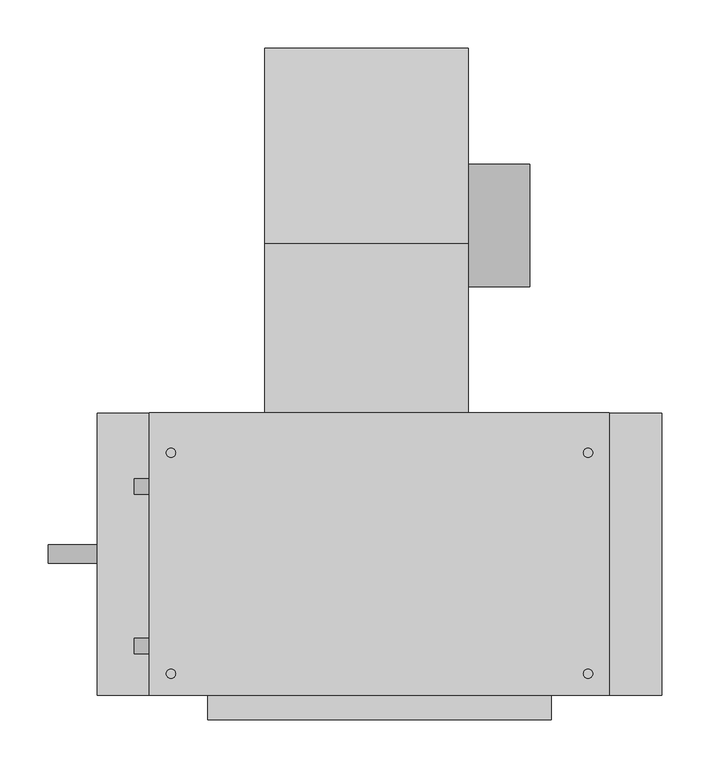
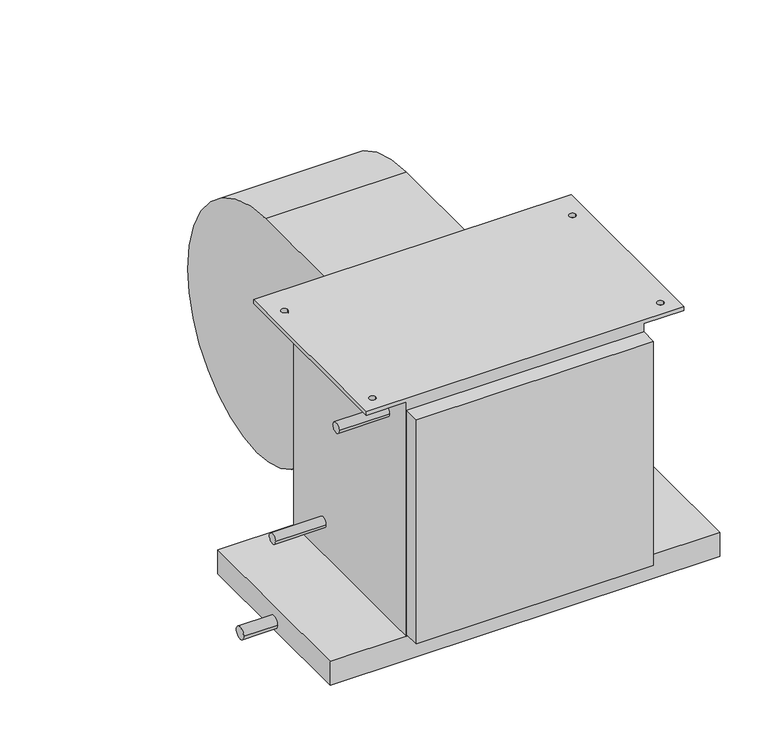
"""IFC4 building model written with IfcOpenShell, lengths in millimetres: proxy geometry, Concealed_High_Capacity_Horizontal_Fan_Coil_Unit_-_42DAA_-_CARRIER_-_2-Pipe_Cool-EHeat_LH_2022 : Size 06 - 277v/60Hz/1Ph - 6 Row 4.0kW."""

from ifc_helpers import new_model, si_unit, point, frame, frame_2d, origin, place, context, project, spatial, polyline, circle_curve, trimmed, segment, composite_curve, outline, extrude, source, transform, mapped, element, save
from ifc_brep_helpers import plane_surface, cylinder_surface, revolved_surface, advanced_brep


def mechanical_equipment_44f1a98d(model_context):
    return source(origin(), model_context, "Body", "SolidModel", [
        extrude(outline(composite_curve([segment(trimmed(circle_curve(frame_2d((102.0007598, -206.8897468)), 63.5), [point((165.5007598, -206.8897468))], [point((38.5007598, -206.8897468))], False, "CARTESIAN"), True, "CONTINUOUS"), segment(trimmed(circle_curve(frame_2d((102.0007598, -206.8897468)), 63.5), [point((38.5007598, -206.8897468))], [point((165.5007598, -206.8897468))], False, "CARTESIAN"), True, "CONTINUOUS")], self_intersect=False)), frame((244.475, 0.0, 0.0), z_axis=(1.0, 0.0, 0.0), x_axis=(0.0, 1.0, 0.0)), (0.0, 0.0, 1.0), 63.5),
        advanced_brep(
        [(33.401, 285.5155957, -222.029602), (33.401, 104.6226, -403.64664), (33.401, -50.9016, -277.10638), (33.401, -92.075, -277.10638), (33.401, -92.075, -19.05), (33.401, 83.0080093, -19.05), (244.475, 285.5155957, -222.029602), (244.475, 83.0080093, -19.05), (244.475, -92.075, -19.05), (244.475, -92.075, -277.10638), (244.475, -50.9016, -277.10638), (244.475, 104.622599, -403.6457839)],
        [
            (0, 1, circle_curve(frame((33.401, 104.44226, -222.57258), z_axis=(-1.0, 0.0, 0.0), x_axis=(0.0, -1.0, 0.0)), 181.0741498)),
            (1, 2, circle_curve(frame((33.401, 104.44226, -245.02364), z_axis=(-1.0, 0.0, 0.0), x_axis=(0.0, -1.0, 0.0)), 158.6222464)),
            (2, 3),
            (3, 4),
            (4, 5),
            (5, 0, circle_curve(frame((33.401, 81.9912, -222.57258), z_axis=(-1.0, 0.0, 0.0), x_axis=(0.0, -1.0, 0.0)), 203.52512)),
            (6, 7, circle_curve(frame((244.475, 81.9912, -222.57258), z_axis=(1.0, 0.0, 0.0), x_axis=(0.0, -1.0, 0.0)), 203.52512)),
            (7, 8),
            (8, 9),
            (9, 10),
            (10, 11, circle_curve(frame((244.475, 104.44226, -245.02364), z_axis=(1.0, 0.0, 0.0), x_axis=(0.0, -1.0, 0.0)), 158.6222464)),
            (11, 6, circle_curve(frame((244.475, 104.44226, -222.57258), z_axis=(1.0, 0.0, 0.0), x_axis=(0.0, -1.0, 0.0)), 181.0741498)),
            (0, 6),
            (11, 1),
            (10, 2),
            (9, 3),
            (8, 4),
            (7, 5),
        ],
        [
            plane_surface(frame((33.401, -76.6318898, -222.57258), z_axis=(-1.0, 0.0, 0.0), x_axis=(0.0, 0.0, 1.0))),
            plane_surface(frame((244.475, -76.6318898, -222.57258), z_axis=(1.0, 0.0, 0.0), x_axis=(0.0, 0.0, -1.0))),
            cylinder_surface(frame((244.475, 104.44226, -222.57258), z_axis=(-1.0, 0.0, 0.0), x_axis=(0.0, -1.0, 0.0)), 181.0741498),
            cylinder_surface(frame((244.475, 104.44226, -245.02364), z_axis=(-1.0, 0.0, 0.0), x_axis=(0.0, -1.0, 0.0)), 158.6222464),
            plane_surface(frame((33.401, -50.9016, -277.10638), z_axis=(0.0, 0.0, -1.0), x_axis=(1.0, 0.0, 0.0))),
            plane_surface(frame((33.401, -92.075, -277.10638), z_axis=(0.0, -1.0, 0.0), x_axis=(1.0, 0.0, 0.0))),
            plane_surface(frame((33.401, -92.075, -19.05), z_axis=(0.0, 0.0, 1.0), x_axis=(1.0, 0.0, 0.0))),
            cylinder_surface(frame((244.475, 81.9912, -222.57258), z_axis=(-1.0, 0.0, 0.0), x_axis=(0.0, -1.0, 0.0)), 203.52512),
        ],
        [
            (0, [[1, 2, 3, 4, 5, 6]]),
            (1, [[7, 8, 9, 10, 11, 12]]),
            (2, [[-1, 13, -12, 14]]),
            (3, [[-2, -14, -11, 15]]),
            (4, [[-3, -15, -10, 16]]),
            (5, [[-4, -16, -9, 17]]),
            (6, [[-5, -17, -8, 18]]),
            (7, [[-6, -18, -7, -13]]),
        ],
    ),
        advanced_brep(
        [(390.525, -92.075, -6.35), (390.525, -384.175, -6.35), (330.2, -384.175, -6.35), (330.2, -92.075, -6.35), (363.5375, -133.35, -6.35), (373.0625, -133.35, -6.35), (363.5375, -361.95, -6.35), (373.0625, -361.95, -6.35), (-85.725, -92.075, -6.35), (-25.4, -92.075, -6.35), (-25.4, -384.175, -6.35), (-85.725, -384.175, -6.35), (-68.2625, -133.35, -6.35), (-58.7375, -133.35, -6.35), (-68.2625, -361.95, -6.35), (-58.7375, -361.95, -6.35), (390.525, -384.175, 0.0), (390.525, -92.075, 0.0), (-85.725, -92.075, 0.0), (-85.725, -384.175, 0.0), (-58.7375, -133.35, 0.0), (-68.2625, -133.35, 0.0), (-58.7375, -361.95, 0.0), (-68.2625, -361.95, 0.0), (373.0625, -133.35, 0.0), (363.5375, -133.35, 0.0), (373.0625, -361.95, 0.0), (363.5375, -361.95, 0.0), (330.2, -92.075, -377.825), (-25.4, -92.075, -377.825), (-25.4, -384.175, -377.825), (330.2, -384.175, -377.825)],
        [
            (0, 1),
            (1, 2),
            (2, 3),
            (3, 0),
            (4, 5, circle_curve(frame((368.3, -133.35, -6.35), z_axis=(0.0, 0.0, 1.0), x_axis=(1.0, 0.0, 0.0)), 4.7625)),
            (5, 4, circle_curve(frame((368.3, -133.35, -6.35), z_axis=(0.0, 0.0, 1.0), x_axis=(1.0, 0.0, 0.0)), 4.7625)),
            (6, 7, circle_curve(frame((368.3, -361.95, -6.35), z_axis=(0.0, 0.0, 1.0), x_axis=(1.0, 0.0, 0.0)), 4.7625)),
            (7, 6, circle_curve(frame((368.3, -361.95, -6.35), z_axis=(0.0, 0.0, 1.0), x_axis=(1.0, 0.0, 0.0)), 4.7625)),
            (8, 9),
            (9, 10),
            (10, 11),
            (11, 8),
            (12, 13, circle_curve(frame((-63.5, -133.35, -6.35), z_axis=(0.0, 0.0, 1.0), x_axis=(1.0, 0.0, 0.0)), 4.7625)),
            (13, 12, circle_curve(frame((-63.5, -133.35, -6.35), z_axis=(0.0, 0.0, 1.0), x_axis=(1.0, 0.0, 0.0)), 4.7625)),
            (14, 15, circle_curve(frame((-63.5, -361.95, -6.35), z_axis=(0.0, 0.0, 1.0), x_axis=(1.0, 0.0, 0.0)), 4.7625)),
            (15, 14, circle_curve(frame((-63.5, -361.95, -6.35), z_axis=(0.0, 0.0, 1.0), x_axis=(1.0, 0.0, 0.0)), 4.7625)),
            (16, 17),
            (17, 18),
            (18, 19),
            (19, 16),
            (20, 21, circle_curve(frame((-63.5, -133.35, 0.0), z_axis=(0.0, 0.0, -1.0), x_axis=(1.0, 0.0, 0.0)), 4.7625)),
            (21, 20, circle_curve(frame((-63.5, -133.35, 0.0), z_axis=(0.0, 0.0, -1.0), x_axis=(1.0, 0.0, 0.0)), 4.7625)),
            (22, 23, circle_curve(frame((-63.5, -361.95, 0.0), z_axis=(0.0, 0.0, -1.0), x_axis=(1.0, 0.0, 0.0)), 4.7625)),
            (23, 22, circle_curve(frame((-63.5, -361.95, 0.0), z_axis=(0.0, 0.0, -1.0), x_axis=(1.0, 0.0, 0.0)), 4.7625)),
            (24, 25, circle_curve(frame((368.3, -133.35, 0.0), z_axis=(0.0, 0.0, -1.0), x_axis=(1.0, 0.0, 0.0)), 4.7625)),
            (25, 24, circle_curve(frame((368.3, -133.35, 0.0), z_axis=(0.0, 0.0, -1.0), x_axis=(1.0, 0.0, 0.0)), 4.7625)),
            (26, 27, circle_curve(frame((368.3, -361.95, 0.0), z_axis=(0.0, 0.0, -1.0), x_axis=(1.0, 0.0, 0.0)), 4.7625)),
            (27, 26, circle_curve(frame((368.3, -361.95, 0.0), z_axis=(0.0, 0.0, -1.0), x_axis=(1.0, 0.0, 0.0)), 4.7625)),
            (3, 28),
            (28, 29),
            (29, 9),
            (8, 18),
            (17, 0),
            (1, 16),
            (19, 11),
            (10, 30),
            (30, 31),
            (31, 2),
            (28, 31),
            (30, 29),
            (20, 13),
            (12, 21),
            (22, 15),
            (14, 23),
            (24, 5),
            (4, 25),
            (26, 7),
            (6, 27),
        ],
        [
            plane_surface(frame((330.2, -92.075, -6.35), z_axis=(0.0, 0.0, -1.0), x_axis=(1.0, 0.0, 0.0))),
            plane_surface(frame((330.2, -92.075, 0.0), z_axis=(0.0, 0.0, 1.0), x_axis=(-1.0, 0.0, 0.0))),
            plane_surface(frame((390.525, -92.075, 0.0), z_axis=(0.0, 1.0, 0.0), x_axis=(0.0, 0.0, -1.0))),
            plane_surface(frame((330.2, -384.175, 0.0), z_axis=(0.0, -1.0, 0.0), x_axis=(0.0, 0.0, -1.0))),
            plane_surface(frame((390.525, -384.175, 0.0), z_axis=(1.0, 0.0, 0.0), x_axis=(0.0, 0.0, -1.0))),
            plane_surface(frame((-85.725, -92.075, 0.0), z_axis=(-1.0, 0.0, 0.0), x_axis=(0.0, 0.0, -1.0))),
            plane_surface(frame((-25.4, -92.075, -377.825), z_axis=(0.0, 0.0, -1.0), x_axis=(1.0, 0.0, 0.0))),
            plane_surface(frame((-25.4, -92.075, 0.0), z_axis=(-1.0, 0.0, 0.0), x_axis=(0.0, 0.0, -1.0))),
            plane_surface(frame((330.2, -384.175, 0.0), z_axis=(1.0, 0.0, 0.0), x_axis=(0.0, 0.0, -1.0))),
            revolved_surface(polyline([(-58.7375, -133.35, 0.0), (-58.7375, -133.35, -6.35)]), (-63.5, -133.35, -6.35), (0.0, 0.0, 1.0)),
            revolved_surface(polyline([(-58.7375, -361.95, 0.0), (-58.7375, -361.95, -6.35)]), (-63.5, -361.95, 0.0), (0.0, 0.0, 1.0)),
            revolved_surface(polyline([(373.0625, -133.35, 0.0), (373.0625, -133.35, -6.35)]), (368.3, -133.35, 0.0), (0.0, 0.0, 1.0)),
            revolved_surface(polyline([(373.0625, -361.95, 0.0), (373.0625, -361.95, -6.35)]), (368.3, -361.95, 0.0), (0.0, 0.0, 1.0)),
        ],
        [
            (0, [[1, 2, 3, 4], [5, 6], [7, 8]]),
            (0, [[9, 10, 11, 12], [13, 14], [15, 16]]),
            (1, [[17, 18, 19, 20], [21, 22], [23, 24], [25, 26], [27, 28]]),
            (2, [[-4, 29, 30, 31, -9, 32, -18, 33]]),
            (3, [[-2, 34, -20, 35, -11, 36, 37, 38]]),
            (4, [[-1, -33, -17, -34]]),
            (5, [[-12, -35, -19, -32]]),
            (6, [[39, -37, 40, -30]]),
            (7, [[-40, -36, -10, -31]]),
            (8, [[-39, -29, -3, -38]]),
            (9, [[41, -13, 42, -21]]),
            (9, [[-41, -22, -42, -14]]),
            (10, [[43, -15, 44, -23]]),
            (10, [[-43, -24, -44, -16]]),
            (11, [[45, -5, 46, -25]]),
            (11, [[-45, -26, -46, -6]]),
            (12, [[47, -7, 48, -27]]),
            (12, [[-47, -28, -48, -8]]),
        ],
    ),
        extrude(outline(composite_curve([segment(trimmed(circle_curve(frame_2d((-238.125, -403.225)), 9.525), [point((-247.65, -403.225))], [point((-228.6, -403.225))], False, "CARTESIAN"), True, "CONTINUOUS"), segment(trimmed(circle_curve(frame_2d((-238.125, -403.225)), 9.525), [point((-228.6, -403.225))], [point((-247.65, -403.225))], False, "CARTESIAN"), True, "CONTINUOUS")], self_intersect=False)), frame((-190.5, 0.0, 0.0), z_axis=(1.0, 0.0, 0.0), x_axis=(0.0, 1.0, 0.0)), (0.0, 0.0, 1.0), 50.8),
        extrude(outline(composite_curve([segment(trimmed(circle_curve(frame_2d((-333.375, -50.8)), 7.9375), [point((-341.3125, -50.8))], [point((-325.4375, -50.8))], False, "CARTESIAN"), True, "CONTINUOUS"), segment(trimmed(circle_curve(frame_2d((-333.375, -50.8)), 7.9375), [point((-325.4375, -50.8))], [point((-341.3125, -50.8))], False, "CARTESIAN"), True, "CONTINUOUS")], self_intersect=False)), frame((-101.6, 0.0, 0.0), z_axis=(1.0, 0.0, 0.0), x_axis=(0.0, 1.0, 0.0)), (0.0, 0.0, 1.0), 76.2),
        extrude(outline(composite_curve([segment(trimmed(circle_curve(frame_2d((-168.275, -327.025)), 7.9375), [point((-176.2125, -327.025))], [point((-160.3375, -327.025))], False, "CARTESIAN"), True, "CONTINUOUS"), segment(trimmed(circle_curve(frame_2d((-168.275, -327.025)), 7.9375), [point((-160.3375, -327.025))], [point((-176.2125, -327.025))], False, "CARTESIAN"), True, "CONTINUOUS")], self_intersect=False)), frame((-101.6, 0.0, 0.0), z_axis=(1.0, 0.0, 0.0), x_axis=(0.0, 1.0, 0.0)), (0.0, 0.0, 1.0), 76.2),
        extrude(outline(polyline([(330.2, -409.575), (-25.4, -409.575), (-25.4, -384.175), (330.2, -384.175), (330.2, -409.575)])), frame((0.0, 0.0, -374.65), z_axis=(0.0, 0.0, 1.0), x_axis=(1.0, 0.0, 0.0)), (0.0, 0.0, 1.0), 355.6),
        extrude(outline(polyline([(444.5, -92.075), (444.5, -384.175), (-139.7, -384.175), (-139.7, -92.075), (444.5, -92.075)])), frame((0.0, 0.0, -415.925), z_axis=(0.0, 0.0, 1.0), x_axis=(1.0, 0.0, 0.0)), (0.0, 0.0, 1.0), 38.1),
    ])


if __name__ == "__main__":
    model = new_model("IFC4")
    model_context = context("Model", 3, world=origin())
    ifc_project = project(units=[si_unit("LENGTHUNIT", "METRE", prefix="MILLI")], contexts=[model_context])
    site = spatial("IfcSite", under=ifc_project)
    building = spatial("IfcBuilding", under=site)
    placement = place(None, origin())
    mechanical_equipment_shape = mechanical_equipment_44f1a98d(model_context)
    element("IfcBuildingElementProxy", 1, Name="Concealed_High_Capacity_Horizontal_Fan_Coil_Unit_-_42DAA_-_CARRIER_-_2-Pipe_Cool-EHeat_LH_2022 : Size 06 - 277v/60Hz/1Ph - 6 Row 4.0kW", ObjectType="Concealed_High_Capacity_Horizontal_Fan_Coil_Unit_-_42DAA_-_CARRIER_-_2-Pipe_Cool-EHeat_LH_2022 : Size 06 - 277v/60Hz/1Ph - 6 Row 4.0kW", at=placement, inside=building, context=model_context, shape_type="MappedRepresentation", body=[
        mapped(mechanical_equipment_shape, transform((0.0, 0.0, 0.0), x_axis=(1.0, 0.0, 0.0), y_axis=(0.0, 1.0, 0.0), z_axis=(0.0, 0.0, 1.0))),
    ])
    save(model, "model.ifc")
